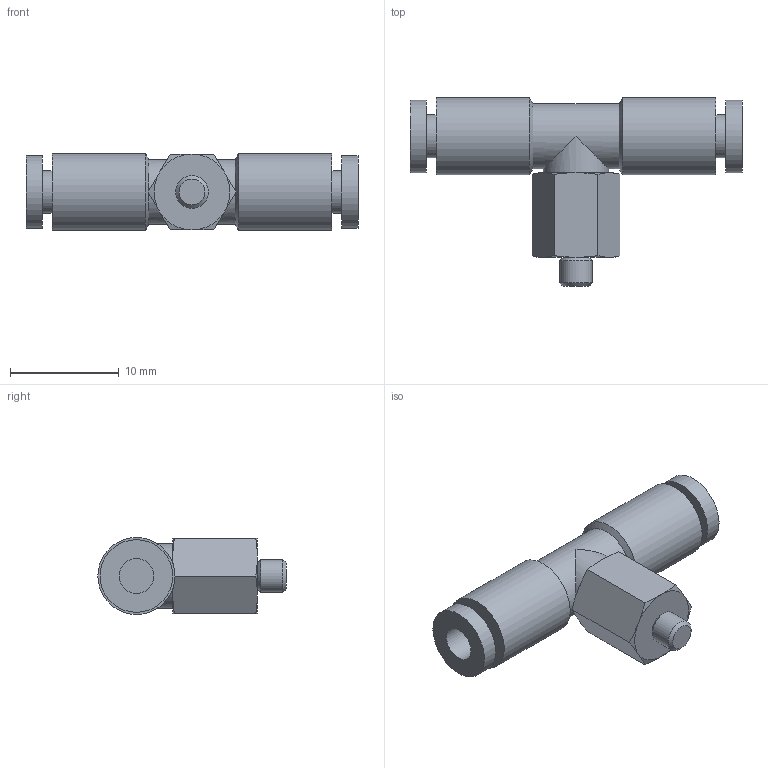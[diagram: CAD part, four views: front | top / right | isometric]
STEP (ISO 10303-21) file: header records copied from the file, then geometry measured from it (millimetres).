
FILE_DESCRIPTION(/* description */ ('STEP AP214'),/* implementation_level */ '2;1');
FILE_NAME(/* name */ 'KQ2T23-M3G',/* time_stamp */ '2023-03-09T07:33:17+01:00',/* author */ ('License CC BY-ND 4.0'),/* organization */ ('CADENAS'),/* preprocessor_version */ 'ST-DEVELOPER v19.3',/* originating_system */ 'PARTsolutions',/* authorisation */ ' ');
FILE_SCHEMA (('AUTOMOTIVE_DESIGN {1 0 10303 214 3 1 1}'));
Length unit declared in the file: millimetre
Products named in the file (1): KQ2T23-M3G
Bounding box: 30.6 x 17.35 x 7.1 mm (x, y, z)
Volume: 1212.8 mm3; surface area: 1345.3 mm2
Topology: 1 solids, 1 shells, 44 faces, 83 edges, 49 vertices
Faces by surface type: plane 17, cone 16, cylinder 11
Full cylindrical faces by diameter (mm): 3 x1, 3.2 x2, 3.95 x2, 6 x2, 6.7 x2, 7.1 x2
Entity records: 1066 total; most frequent: CARTESIAN_POINT 233, DIRECTION 170, ORIENTED_EDGE 134, AXIS2_PLACEMENT_3D 82, EDGE_LOOP 68, FACE_BOUND 68, EDGE_CURVE 67, VERTEX_POINT 49
